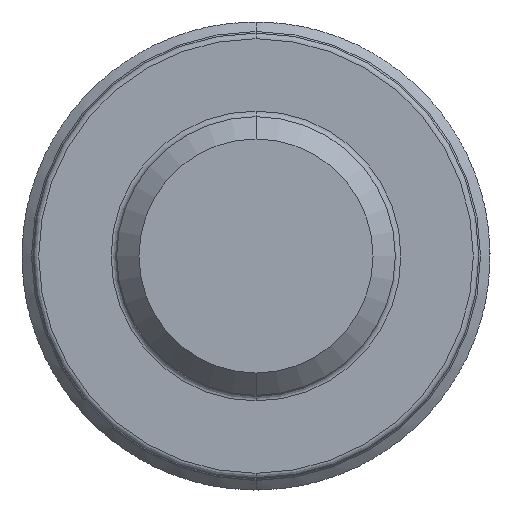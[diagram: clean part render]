
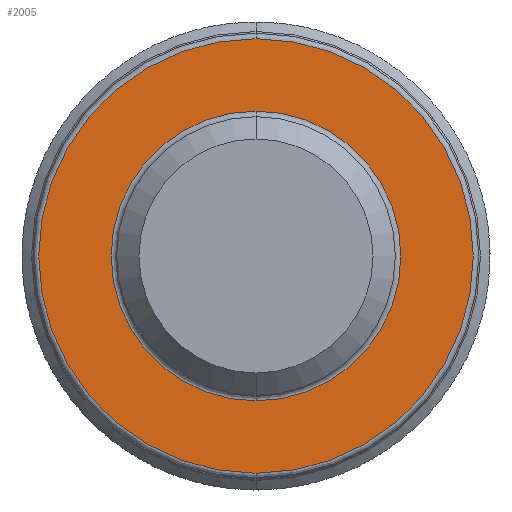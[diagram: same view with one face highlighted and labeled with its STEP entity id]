
A CAD part, front view. The second image highlights one B-rep face of the part: STEP entity #2005.
In plain terms, the highlighted planar face has unit normal (0, -1, 0).
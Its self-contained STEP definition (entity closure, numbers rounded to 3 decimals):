
#338 = CARTESIAN_POINT ( 'NONE',  ( 0., -5., 0. ) ) ;
#521 = AXIS2_PLACEMENT_3D ( 'NONE', #5252, #4026, #3304 ) ;
#661 = DIRECTION ( 'NONE',  ( 0., 0., -1. ) ) ;
#1143 = ORIENTED_EDGE ( 'NONE', *, *, #3137, .T. ) ;
#1259 = CARTESIAN_POINT ( 'NONE',  ( 2.5, -5., 0. ) ) ;
#1324 = DIRECTION ( 'NONE',  ( 0., -1., 0. ) ) ;
#1376 = DIRECTION ( 'NONE',  ( 0., -1., 0. ) ) ;
#1452 = DIRECTION ( 'NONE',  ( 0., 1., 0. ) ) ;
#2000 = CARTESIAN_POINT ( 'NONE',  ( 0., -5., 3.9 ) ) ;
#2005 = ADVANCED_FACE ( 'NONE', ( #3164, #7036 ), #7676, .T. ) ;
#2342 = VERTEX_POINT ( 'NONE', #4294 ) ;
#2408 = CIRCLE ( 'NONE', #521, 3.9 ) ;
#3137 = EDGE_CURVE ( 'NONE', #7020, #6265, #5778, .T. ) ;
#3164 = FACE_BOUND ( 'NONE', #4237, .T. ) ;
#3194 = ORIENTED_EDGE ( 'NONE', *, *, #6671, .T. ) ;
#3298 = EDGE_CURVE ( 'NONE', #6265, #7020, #2408, .T. ) ;
#3304 = DIRECTION ( 'NONE',  ( 0., 0., -1. ) ) ;
#3492 = AXIS2_PLACEMENT_3D ( 'NONE', #4505, #1324, #6357 ) ;
#3717 = DIRECTION ( 'NONE',  ( 0., 1., 0. ) ) ;
#3719 = ORIENTED_EDGE ( 'NONE', *, *, #3298, .T. ) ;
#3985 = AXIS2_PLACEMENT_3D ( 'NONE', #5665, #3717, #5150 ) ;
#4026 = DIRECTION ( 'NONE',  ( 0., -1., 0. ) ) ;
#4237 = EDGE_LOOP ( 'NONE', ( #4724, #3194 ) ) ;
#4294 = CARTESIAN_POINT ( 'NONE',  ( 0., -5., -2.6 ) ) ;
#4338 = CARTESIAN_POINT ( 'NONE',  ( 0., -5., 2.6 ) ) ;
#4505 = CARTESIAN_POINT ( 'NONE',  ( 0., -5., 0. ) ) ;
#4553 = AXIS2_PLACEMENT_3D ( 'NONE', #338, #1452, #7738 ) ;
#4724 = ORIENTED_EDGE ( 'NONE', *, *, #4814, .T. ) ;
#4814 = EDGE_CURVE ( 'NONE', #2342, #7569, #6789, .T. ) ;
#5150 = DIRECTION ( 'NONE',  ( 0., 0., -1. ) ) ;
#5252 = CARTESIAN_POINT ( 'NONE',  ( 0., -5., 0. ) ) ;
#5665 = CARTESIAN_POINT ( 'NONE',  ( 0., -5., 0. ) ) ;
#5762 = AXIS2_PLACEMENT_3D ( 'NONE', #1259, #1376, #661 ) ;
#5778 = CIRCLE ( 'NONE', #3492, 3.9 ) ;
#6119 = EDGE_LOOP ( 'NONE', ( #1143, #3719 ) ) ;
#6265 = VERTEX_POINT ( 'NONE', #2000 ) ;
#6298 = CIRCLE ( 'NONE', #4553, 2.6 ) ;
#6357 = DIRECTION ( 'NONE',  ( 0., 0., -1. ) ) ;
#6671 = EDGE_CURVE ( 'NONE', #7569, #2342, #6298, .T. ) ;
#6789 = CIRCLE ( 'NONE', #3985, 2.6 ) ;
#7020 = VERTEX_POINT ( 'NONE', #7058 ) ;
#7036 = FACE_OUTER_BOUND ( 'NONE', #6119, .T. ) ;
#7058 = CARTESIAN_POINT ( 'NONE',  ( 0., -5., -3.9 ) ) ;
#7569 = VERTEX_POINT ( 'NONE', #4338 ) ;
#7676 = PLANE ( 'NONE',  #5762 ) ;
#7738 = DIRECTION ( 'NONE',  ( 0., 0., -1. ) ) ;
